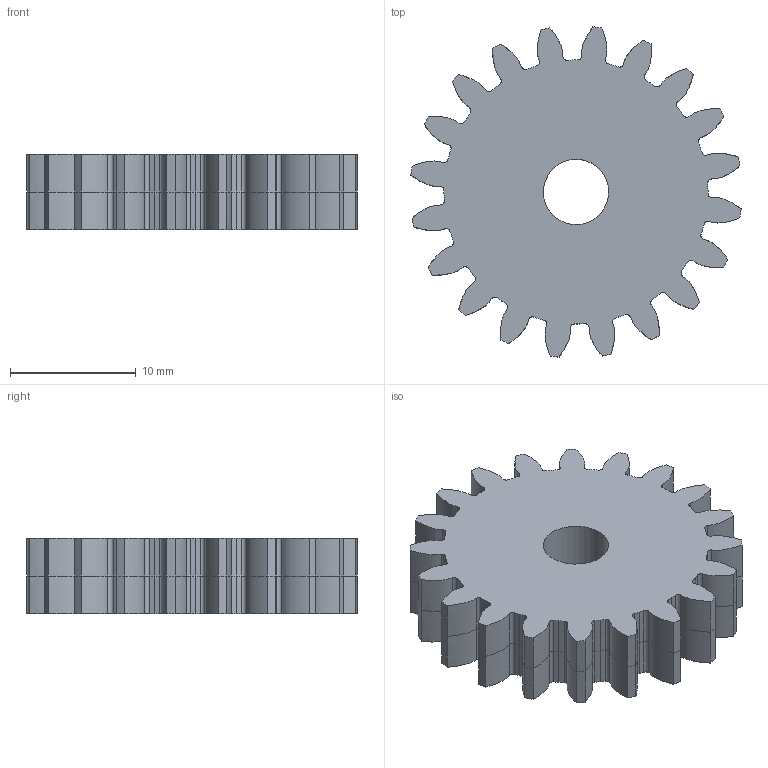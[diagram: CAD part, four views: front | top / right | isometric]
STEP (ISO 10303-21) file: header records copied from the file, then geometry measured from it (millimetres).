
FILE_DESCRIPTION(('Open CASCADE Model'),'2;1');
FILE_NAME('TH_idler_1','2026-11-05T16:12:20',('Author'),('Open CASCADE') ,'Open CASCADE STEP processor 7.9','build123d','Unknown');
FILE_SCHEMA(('AUTOMOTIVE_DESIGN { 1 0 10303 214 1 1 1 1 }'));
Length unit declared in the file: millimetre
Products named in the file (2): TH_idler_1
Assembly tree (1 placements, depth 2):
  TH_idler_1
    TH_idler_1
Bounding box: 26.26 x 26.26 x 6 mm (x, y, z)
Volume: 2491.3 mm3; surface area: 1843 mm2
Topology: 1 solids, 1 shells, 283 faces, 703 edges, 422 vertices
Faces by surface type: cylinder 201, extrusion 80, plane 2
Full cylindrical faces by diameter (mm): 5.2 x1
Entity records: 24134 total; most frequent: CARTESIAN_POINT 9816, DIRECTION 2701, VECTOR 1485, ORIENTED_EDGE 1406, PCURVE 1406, DEFINITIONAL_REPRESENTATION 1406, LINE 1405, EDGE_CURVE 703
